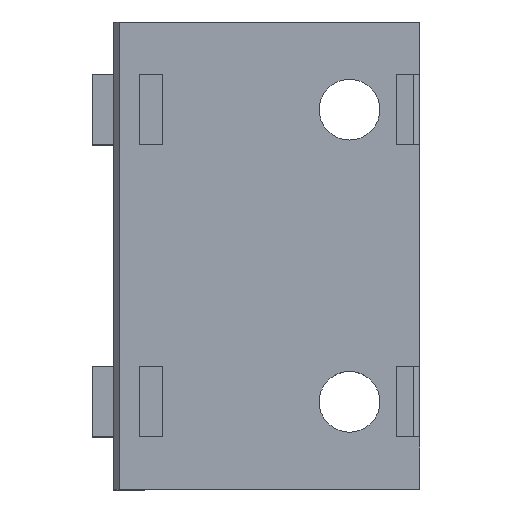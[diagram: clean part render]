
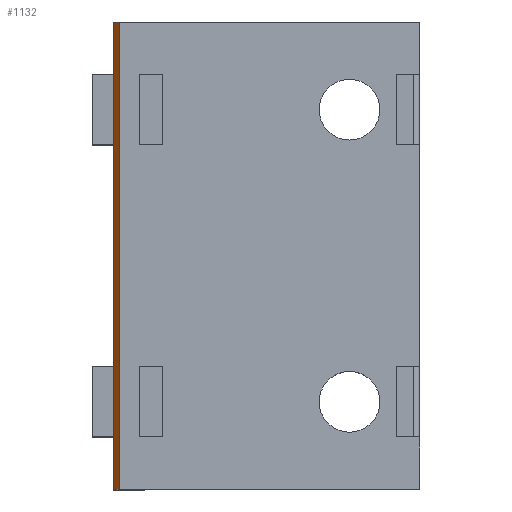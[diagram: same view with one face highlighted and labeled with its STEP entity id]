
A CAD part, top view. The second image highlights one B-rep face of the part: STEP entity #1132.
In plain terms, the highlighted planar face has unit normal (-0.707, 0, 0.707).
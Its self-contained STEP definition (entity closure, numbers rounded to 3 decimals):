
#36 = CARTESIAN_POINT ( 'NONE',  ( 2.3, 40., -1.8 ) ) ;
#49 = EDGE_CURVE ( 'NONE', #1235, #634, #1430, .T. ) ;
#216 = EDGE_CURVE ( 'NONE', #634, #1099, #796, .T. ) ;
#263 = DIRECTION ( 'NONE',  ( 0.707, 0., -0.707 ) ) ;
#318 = VECTOR ( 'NONE', #2298, 1000. ) ;
#433 = CARTESIAN_POINT ( 'NONE',  ( 1.8, 0., -2.3 ) ) ;
#466 = CARTESIAN_POINT ( 'NONE',  ( 2.3, 0., -1.8 ) ) ;
#482 = EDGE_CURVE ( 'NONE', #1099, #1572, #771, .T. ) ;
#555 = ORIENTED_EDGE ( 'NONE', *, *, #49, .F. ) ;
#618 = CARTESIAN_POINT ( 'NONE',  ( 1.8, 0., -2.3 ) ) ;
#634 = VERTEX_POINT ( 'NONE', #466 ) ;
#656 = CARTESIAN_POINT ( 'NONE',  ( 1.8, 0., -2.3 ) ) ;
#771 = LINE ( 'NONE', #1692, #831 ) ;
#796 = LINE ( 'NONE', #656, #318 ) ;
#804 = PLANE ( 'NONE',  #1708 ) ;
#831 = VECTOR ( 'NONE', #2238, 1000. ) ;
#878 = VECTOR ( 'NONE', #1117, 1000. ) ;
#927 = ORIENTED_EDGE ( 'NONE', *, *, #1991, .F. ) ;
#964 = FACE_OUTER_BOUND ( 'NONE', #1606, .T. ) ;
#982 = DIRECTION ( 'NONE',  ( 0., 1., 0. ) ) ;
#1099 = VERTEX_POINT ( 'NONE', #433 ) ;
#1117 = DIRECTION ( 'NONE',  ( 0., -1., 0. ) ) ;
#1132 = ADVANCED_FACE ( 'NONE', ( #964 ), #804, .F. ) ;
#1235 = VERTEX_POINT ( 'NONE', #1544 ) ;
#1354 = VECTOR ( 'NONE', #1393, 1000. ) ;
#1393 = DIRECTION ( 'NONE',  ( 0.707, 0., 0.707 ) ) ;
#1411 = CARTESIAN_POINT ( 'NONE',  ( 2.05, 40., -2.05 ) ) ;
#1430 = LINE ( 'NONE', #36, #878 ) ;
#1505 = CARTESIAN_POINT ( 'NONE',  ( 1.8, 40., -2.3 ) ) ;
#1544 = CARTESIAN_POINT ( 'NONE',  ( 2.3, 40., -1.8 ) ) ;
#1572 = VERTEX_POINT ( 'NONE', #1505 ) ;
#1606 = EDGE_LOOP ( 'NONE', ( #2156, #555, #927, #1834 ) ) ;
#1692 = CARTESIAN_POINT ( 'NONE',  ( 1.8, 0., -2.3 ) ) ;
#1708 = AXIS2_PLACEMENT_3D ( 'NONE', #618, #263, #982 ) ;
#1834 = ORIENTED_EDGE ( 'NONE', *, *, #482, .F. ) ;
#1843 = LINE ( 'NONE', #1411, #1354 ) ;
#1991 = EDGE_CURVE ( 'NONE', #1572, #1235, #1843, .T. ) ;
#2156 = ORIENTED_EDGE ( 'NONE', *, *, #216, .F. ) ;
#2238 = DIRECTION ( 'NONE',  ( 0., 1., 0. ) ) ;
#2298 = DIRECTION ( 'NONE',  ( -0.707, 0., -0.707 ) ) ;
